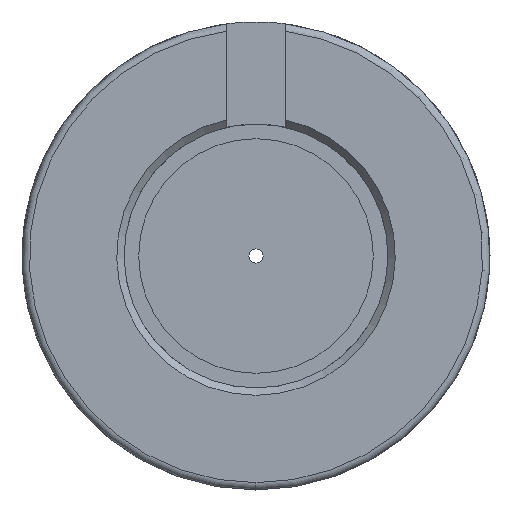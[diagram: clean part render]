
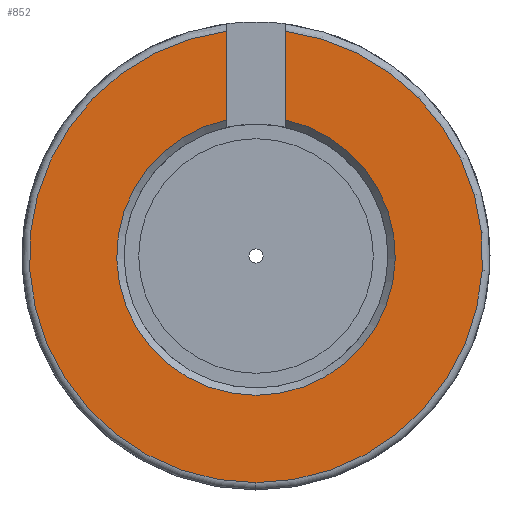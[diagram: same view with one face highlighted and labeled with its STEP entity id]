
A CAD part, left-side view. The second image highlights one B-rep face of the part: STEP entity #852.
In plain terms, the highlighted planar face has unit normal (-1, 0, 0).
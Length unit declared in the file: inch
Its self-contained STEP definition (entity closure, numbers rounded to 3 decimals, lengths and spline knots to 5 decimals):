
#18 = AXIS2_PLACEMENT_3D ( 'NONE', #2863, #1358, #1627 ) ;
#45 = VECTOR ( 'NONE', #1176, 39.37008 ) ;
#61 = VERTEX_POINT ( 'NONE', #116 ) ;
#116 = CARTESIAN_POINT ( 'NONE',  ( -4.95, 0., -0.96625 ) ) ;
#298 = LINE ( 'NONE', #2755, #594 ) ;
#358 = ORIENTED_EDGE ( 'NONE', *, *, #950, .F. ) ;
#374 = AXIS2_PLACEMENT_3D ( 'NONE', #3116, #1349, #3420 ) ;
#380 = CIRCLE ( 'NONE', #1475, 0.96625 ) ;
#485 = VERTEX_POINT ( 'NONE', #2651 ) ;
#525 = PLANE ( 'NONE',  #3696 ) ;
#594 = VECTOR ( 'NONE', #816, 39.37008 ) ;
#674 = ORIENTED_EDGE ( 'NONE', *, *, #1484, .F. ) ;
#718 = LINE ( 'NONE', #1145, #45 ) ;
#722 = CARTESIAN_POINT ( 'NONE',  ( -4.95, 0.125, 0.95813 ) ) ;
#794 = VERTEX_POINT ( 'NONE', #2831 ) ;
#816 = DIRECTION ( 'NONE',  ( 0., 0., -1. ) ) ;
#828 = ORIENTED_EDGE ( 'NONE', *, *, #1435, .F. ) ;
#840 = DIRECTION ( 'NONE',  ( 0., 0., 1. ) ) ;
#852 = ADVANCED_FACE ( 'NONE', ( #3164 ), #525, .T. ) ;
#940 = CIRCLE ( 'NONE', #18, 0.59375 ) ;
#950 = EDGE_CURVE ( 'NONE', #2940, #485, #298, .T. ) ;
#1145 = CARTESIAN_POINT ( 'NONE',  ( -4.95, -0.125, 0.54844 ) ) ;
#1176 = DIRECTION ( 'NONE',  ( 0., 0., 1. ) ) ;
#1349 = DIRECTION ( 'NONE',  ( 1., 0., 0. ) ) ;
#1358 = DIRECTION ( 'NONE',  ( 1., 0., 0. ) ) ;
#1435 = EDGE_CURVE ( 'NONE', #1998, #61, #380, .T. ) ;
#1475 = AXIS2_PLACEMENT_3D ( 'NONE', #3738, #3769, #3838 ) ;
#1484 = EDGE_CURVE ( 'NONE', #794, #1998, #718, .T. ) ;
#1603 = EDGE_CURVE ( 'NONE', #794, #485, #940, .T. ) ;
#1627 = DIRECTION ( 'NONE',  ( 0., 0., -1. ) ) ;
#1771 = EDGE_LOOP ( 'NONE', ( #674, #3298, #358, #2321, #828 ) ) ;
#1998 = VERTEX_POINT ( 'NONE', #3532 ) ;
#2147 = CIRCLE ( 'NONE', #374, 0.96625 ) ;
#2321 = ORIENTED_EDGE ( 'NONE', *, *, #3024, .F. ) ;
#2651 = CARTESIAN_POINT ( 'NONE',  ( -4.95, 0.125, 0.58044 ) ) ;
#2654 = DIRECTION ( 'NONE',  ( -1., 0., 0. ) ) ;
#2755 = CARTESIAN_POINT ( 'NONE',  ( -4.95, 0.125, 0.98964 ) ) ;
#2831 = CARTESIAN_POINT ( 'NONE',  ( -4.95, -0.125, 0.58044 ) ) ;
#2863 = CARTESIAN_POINT ( 'NONE',  ( -4.95, 0., 0. ) ) ;
#2940 = VERTEX_POINT ( 'NONE', #722 ) ;
#3024 = EDGE_CURVE ( 'NONE', #61, #2940, #2147, .T. ) ;
#3116 = CARTESIAN_POINT ( 'NONE',  ( -4.95, 0., 0. ) ) ;
#3164 = FACE_OUTER_BOUND ( 'NONE', #1771, .T. ) ;
#3298 = ORIENTED_EDGE ( 'NONE', *, *, #1603, .T. ) ;
#3388 = CARTESIAN_POINT ( 'NONE',  ( -4.95, 0.96625, 0. ) ) ;
#3420 = DIRECTION ( 'NONE',  ( 0., 0., -1. ) ) ;
#3532 = CARTESIAN_POINT ( 'NONE',  ( -4.95, -0.125, 0.95813 ) ) ;
#3696 = AXIS2_PLACEMENT_3D ( 'NONE', #3388, #2654, #840 ) ;
#3738 = CARTESIAN_POINT ( 'NONE',  ( -4.95, 0., 0. ) ) ;
#3769 = DIRECTION ( 'NONE',  ( 1., 0., 0. ) ) ;
#3838 = DIRECTION ( 'NONE',  ( 0., 0., -1. ) ) ;
